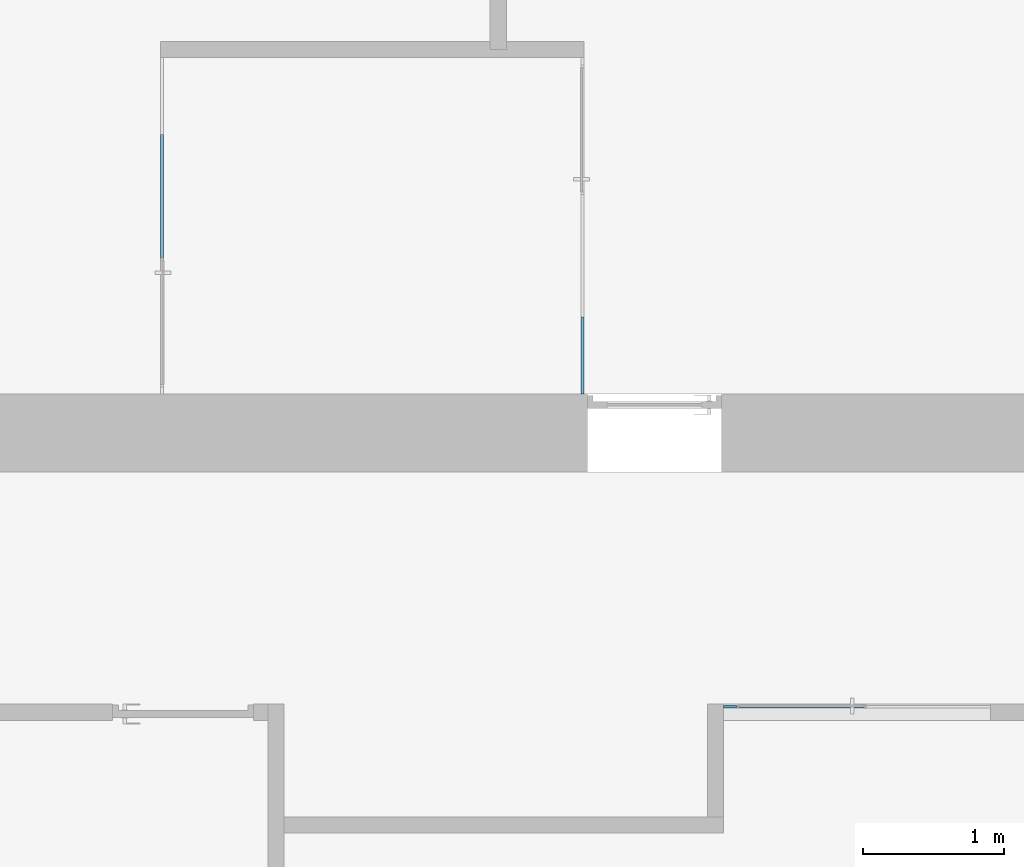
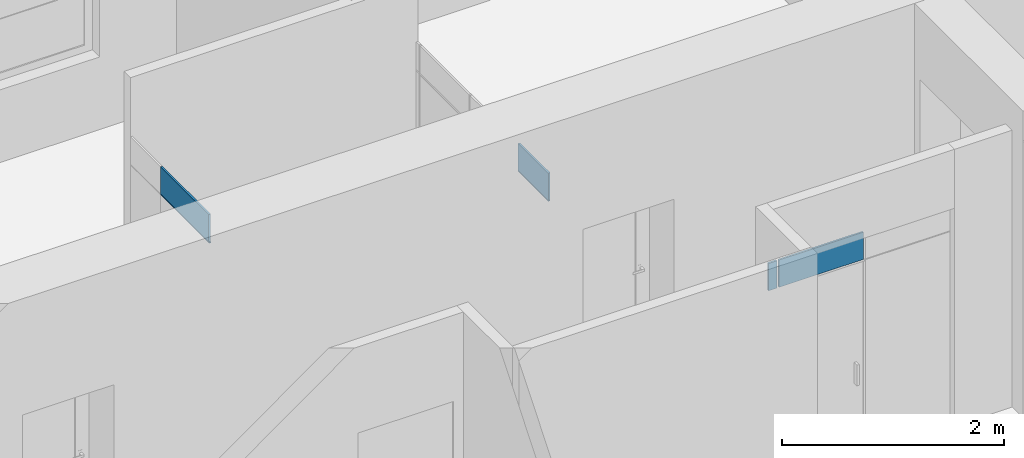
# One storey, part 34 of 66: 6 plates, 3 elements without a shape of their own.
"""IFC2X3 building model written with IfcOpenShell, lengths in millimetres."""

from ifc_helpers import new_model, entity, si_unit, converted_unit, derived_unit, direction, frame, origin, origin_2d_with_axis, place, context, subcontext, project, spatial, rectangle, extrude, source, transform, mapped, material, layer, layer_set, layer_usage, type_object, type_shapes, element, aggregate, save


model = new_model("IFC2X3")

# Units and contexts
model_context = context("Model", 3, precision=0.01, world=origin(), true_north=direction((6.12303176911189e-17, 1.0)))
body_context = subcontext(model_context, "Body", "Model", "MODEL_VIEW")
ifc_project = project(units=[si_unit("LENGTHUNIT", "METRE", prefix="MILLI"), si_unit("AREAUNIT", "SQUARE_METRE"), si_unit("VOLUMEUNIT", "CUBIC_METRE"), converted_unit("PLANEANGLEUNIT", "DEGREE", entity("IfcRatioMeasure", 0.0174532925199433), si_unit("PLANEANGLEUNIT", "RADIAN"), dimensions=[0, 0, 0, 0, 0, 0, 0]), si_unit("MASSUNIT", "GRAM", prefix="KILO"), derived_unit("MASSDENSITYUNIT", [(si_unit("MASSUNIT", "GRAM", prefix="KILO"), 1), (si_unit("LENGTHUNIT", "METRE"), -3)]), si_unit("TIMEUNIT", "SECOND"), si_unit("FREQUENCYUNIT", "HERTZ"), si_unit("THERMODYNAMICTEMPERATUREUNIT", "DEGREE_CELSIUS"), derived_unit("THERMALTRANSMITTANCEUNIT", [(si_unit("MASSUNIT", "GRAM", prefix="KILO"), 1), (si_unit("THERMODYNAMICTEMPERATUREUNIT", "KELVIN"), -1), (si_unit("TIMEUNIT", "SECOND"), -3)]), derived_unit("VOLUMETRICFLOWRATEUNIT", [(si_unit("LENGTHUNIT", "METRE"), 3), (si_unit("TIMEUNIT", "SECOND"), -1)]), si_unit("ELECTRICCURRENTUNIT", "AMPERE"), si_unit("ELECTRICVOLTAGEUNIT", "VOLT"), si_unit("POWERUNIT", "WATT"), si_unit("FORCEUNIT", "NEWTON", prefix="KILO"), si_unit("ILLUMINANCEUNIT", "LUX"), si_unit("LUMINOUSFLUXUNIT", "LUMEN"), si_unit("LUMINOUSINTENSITYUNIT", "CANDELA"), derived_unit("USERDEFINED", [(si_unit("MASSUNIT", "GRAM", prefix="KILO"), -1), (si_unit("LENGTHUNIT", "METRE"), -2), (si_unit("TIMEUNIT", "SECOND"), 3), (si_unit("LUMINOUSFLUXUNIT", "LUMEN"), 1)]), derived_unit("LINEARVELOCITYUNIT", [(si_unit("LENGTHUNIT", "METRE"), 1), (si_unit("TIMEUNIT", "SECOND"), -1)]), si_unit("PRESSUREUNIT", "PASCAL"), derived_unit("USERDEFINED", [(si_unit("LENGTHUNIT", "METRE"), -2), (si_unit("MASSUNIT", "GRAM", prefix="KILO"), 1), (si_unit("TIMEUNIT", "SECOND"), -2)])], contexts=[model_context])

# Site, building, storey
site_placement = place(None, frame((-151.875543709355, 2715.0, 0.0)))
site = spatial("IfcSite", under=ifc_project, at=site_placement, Name="Surface", CompositionType="ELEMENT")
building_placement = place(site_placement, origin())
building = spatial("IfcBuilding", under=site, at=building_placement, CompositionType="ELEMENT")
storey_placement = place(building_placement, frame((0.0, 0.0, 3350.0)))
storey = spatial("IfcBuildingStorey", under=building, at=storey_placement, Name="2 korrus", CompositionType="ELEMENT", Elevation=3350.00000000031)

# Curtain wall, plates
curtain_wall_type_1 = type_object("IfcCurtainWallType", Name="Curtain Wall:Klaassein KLS-11", PredefinedType="NOTDEFINED")
curtain_wall_1_placement = place(storey_placement, frame((0.0, 0.0, -3350.0)))
curtain_wall_1 = element("IfcCurtainWall", 1, at=curtain_wall_1_placement, inside=storey, type_object=curtain_wall_type_1, Name="Curtain Wall:Klaassein KLS-11", ObjectType="Curtain Wall:Klaassein KLS-11")
ifc_material = material(Name="<Unnamed>")
ifc_layer = layer(ifc_material, 20.0)
ifc_layer_set = layer_set([ifc_layer], Name="Curtain Wall:Klaassein KLS-01")
ifc_layer_usage_1 = layer_usage(ifc_layer_set, "AXIS3", "POSITIVE", 0.0)
plate_type_1 = type_object("IfcPlateType", Name="Glazed", PredefinedType="CURTAIN_PANEL", material=ifc_layer_set)
shared_shape_1 = source(origin(), body_context, "Body", "SweptSolid", [
    extrude(rectangle(XDim=20.0, YDim=878.452432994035, at=origin_2d_with_axis()), frame((0.0, 0.0, 0.0), z_axis=(0.0, 0.0, 1.0), x_axis=(0.0, 1.0, 0.0)), (0.0, 0.0, 1.0), 299.999999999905),
])
type_shapes(plate_type_1, [shared_shape_1])
plate_1_placement = place(curtain_wall_1_placement, frame((28604.7909427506, 4345.04493399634, 5450.0), z_axis=(0.0, 0.0, 1.0), x_axis=(-1.0, 0.0, 0.0)))
plate_1 = element("IfcPlate", 2, at=plate_1_placement, type_object=plate_type_1, material=ifc_layer_usage_1, Name="System Panel:Glazed", ObjectType="Glazed", context=body_context, shape_type="MappedRepresentation", body=[
    mapped(shared_shape_1, transform((0.0, 0.0, 0.0), scale=1.0)),
])
ifc_layer_usage_2 = layer_usage(ifc_layer_set, "AXIS3", "POSITIVE", 0.0)
plate_type_2 = type_object("IfcPlateType", Name="Glazed", PredefinedType="CURTAIN_PANEL", material=ifc_layer_set)
shared_shape_2 = source(origin(), body_context, "Body", "SweptSolid", [
    extrude(rectangle(XDim=20.0, YDim=89.9999996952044, at=origin_2d_with_axis()), frame((0.0, 0.0, 0.0), z_axis=(0.0, 0.0, 1.0), x_axis=(0.0, 1.0, 0.0)), (0.0, 0.0, 1.0), 299.999999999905),
])
type_shapes(plate_type_2, [shared_shape_2])
plate_2_placement = place(curtain_wall_1_placement, frame((28099.0171592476, 4345.04493399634, 5450.0), z_axis=(0.0, 0.0, 1.0), x_axis=(-1.0, 0.0, 0.0)))
plate_2 = element("IfcPlate", 3, at=plate_2_placement, type_object=plate_type_2, material=ifc_layer_usage_2, Name="System Panel:Glazed", ObjectType="Glazed", context=body_context, shape_type="MappedRepresentation", body=[
    mapped(shared_shape_2, transform((0.0, 0.0, 0.0), scale=1.0)),
])
aggregate(curtain_wall_1, [plate_1, plate_2])

curtain_wall_type_2 = type_object("IfcCurtainWallType", Name="Curtain Wall:Klaassein KLS-05", PredefinedType="NOTDEFINED")
curtain_wall_2_placement = place(storey_placement, frame((0.0, 0.0, -3350.0)))
curtain_wall_2 = element("IfcCurtainWall", 4, at=curtain_wall_2_placement, inside=storey, type_object=curtain_wall_type_2, Name="Curtain Wall:Klaassein KLS-05", ObjectType="Curtain Wall:Klaassein KLS-05")
ifc_layer_usage_3 = layer_usage(ifc_layer_set, "AXIS3", "POSITIVE", 0.0)
plate_type_3 = type_object("IfcPlateType", Name="Glazed", PredefinedType="CURTAIN_PANEL", material=ifc_layer_set)
shared_shape_3 = source(origin(), body_context, "Body", "SweptSolid", [
    extrude(rectangle(XDim=20.0, YDim=879.080118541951, at=origin_2d_with_axis()), frame((0.0, 0.0, 0.0), z_axis=(0.0, 0.0, 1.0), x_axis=(0.0, 1.0, 0.0)), (0.0, 0.0, 1.0), 9.99999999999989),
])
type_shapes(plate_type_3, [shared_shape_3])
plate_3_placement = place(curtain_wall_2_placement, frame((24073.28599988, 7959.54005927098, 5440.0), z_axis=(0.0, 0.0, 1.0), x_axis=(0.0, -1.0, 0.0)))
plate_3 = element("IfcPlate", 5, at=plate_3_placement, type_object=plate_type_3, material=ifc_layer_usage_3, Name="System Panel:Glazed", ObjectType="Glazed", context=body_context, shape_type="MappedRepresentation", body=[
    mapped(shared_shape_3, transform((0.0, 0.0, 0.0), scale=1.0)),
])
ifc_layer_usage_4 = layer_usage(ifc_layer_set, "AXIS3", "POSITIVE", 0.0)
plate_type_4 = type_object("IfcPlateType", Name="Glazed", PredefinedType="CURTAIN_PANEL", material=ifc_layer_set)
shared_shape_4 = source(origin(), body_context, "Body", "SweptSolid", [
    extrude(rectangle(XDim=20.0, YDim=869.080118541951, at=origin_2d_with_axis()), frame((0.0, 0.0, 0.0), z_axis=(0.0, 0.0, 1.0), x_axis=(0.0, 1.0, 0.0)), (0.0, 0.0, 1.0), 299.999999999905),
])
type_shapes(plate_type_4, [shared_shape_4])
plate_4_placement = place(curtain_wall_2_placement, frame((24073.28599988, 7964.54005927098, 5450.0), z_axis=(0.0, 0.0, 1.0), x_axis=(0.0, -1.0, 0.0)))
plate_4 = element("IfcPlate", 6, at=plate_4_placement, type_object=plate_type_4, material=ifc_layer_usage_4, Name="System Panel:Glazed", ObjectType="Glazed", context=body_context, shape_type="MappedRepresentation", body=[
    mapped(shared_shape_4, transform((0.0, 0.0, 0.0), scale=1.0)),
])
aggregate(curtain_wall_2, [plate_3, plate_4])

curtain_wall_3_placement = place(storey_placement, frame((0.0, 0.0, -3350.0)))
curtain_wall_3 = element("IfcCurtainWall", 7, at=curtain_wall_3_placement, inside=storey, type_object=curtain_wall_type_2, Name="Curtain Wall:Klaassein KLS-05", ObjectType="Curtain Wall:Klaassein KLS-05")
ifc_layer_usage_5 = layer_usage(ifc_layer_set, "AXIS3", "POSITIVE", 0.0)
plate_type_5 = type_object("IfcPlateType", Name="Glazed", PredefinedType="CURTAIN_PANEL", material=ifc_layer_set)
shared_shape_5 = source(origin(), body_context, "Body", "SweptSolid", [
    extrude(rectangle(XDim=20.0, YDim=543.919881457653, at=origin_2d_with_axis()), frame((0.0, 0.0, 0.0), z_axis=(0.0, 0.0, 1.0), x_axis=(0.0, 1.0, 0.0)), (0.0, 0.0, 1.0), 9.99999999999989),
])
type_shapes(plate_type_5, [shared_shape_5])
plate_5_placement = place(curtain_wall_3_placement, frame((27053.2859998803, 6831.95994072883, 5440.0), z_axis=(0.0, 0.0, 1.0), x_axis=(0.0, 1.0, 0.0)))
plate_5 = element("IfcPlate", 8, at=plate_5_placement, type_object=plate_type_5, material=ifc_layer_usage_5, Name="System Panel:Glazed", ObjectType="Glazed", context=body_context, shape_type="MappedRepresentation", body=[
    mapped(shared_shape_5, transform((0.0, 0.0, 0.0), scale=1.0)),
])
ifc_layer_usage_6 = layer_usage(ifc_layer_set, "AXIS3", "POSITIVE", 0.0)
plate_type_6 = type_object("IfcPlateType", Name="Glazed", PredefinedType="CURTAIN_PANEL", material=ifc_layer_set)
shared_shape_6 = source(origin(), body_context, "Body", "SweptSolid", [
    extrude(rectangle(XDim=20.0, YDim=543.919881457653, at=origin_2d_with_axis()), frame((0.0, 0.0, 0.0), z_axis=(0.0, 0.0, 1.0), x_axis=(0.0, 1.0, 0.0)), (0.0, 0.0, 1.0), 299.999999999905),
])
type_shapes(plate_type_6, [shared_shape_6])
plate_6_placement = place(curtain_wall_3_placement, frame((27053.2859998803, 6831.95994072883, 5450.0), z_axis=(0.0, 0.0, 1.0), x_axis=(0.0, 1.0, 0.0)))
plate_6 = element("IfcPlate", 9, at=plate_6_placement, type_object=plate_type_6, material=ifc_layer_usage_6, Name="System Panel:Glazed", ObjectType="Glazed", context=body_context, shape_type="MappedRepresentation", body=[
    mapped(shared_shape_6, transform((0.0, 0.0, 0.0), scale=1.0)),
])
aggregate(curtain_wall_3, [plate_5, plate_6])

save(model, "model.ifc")
